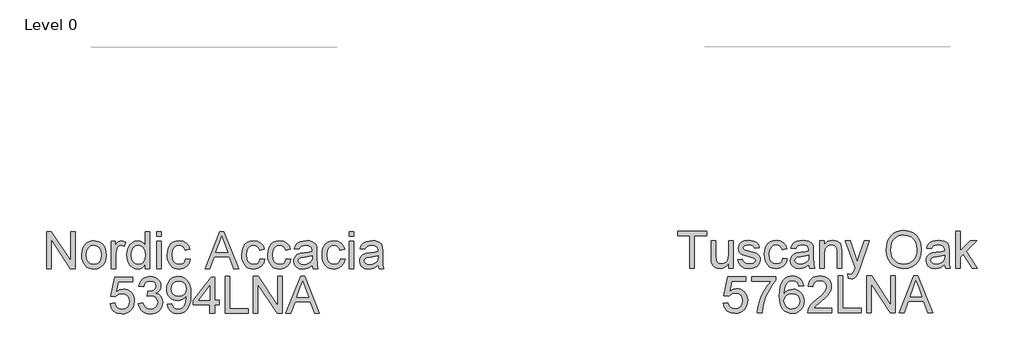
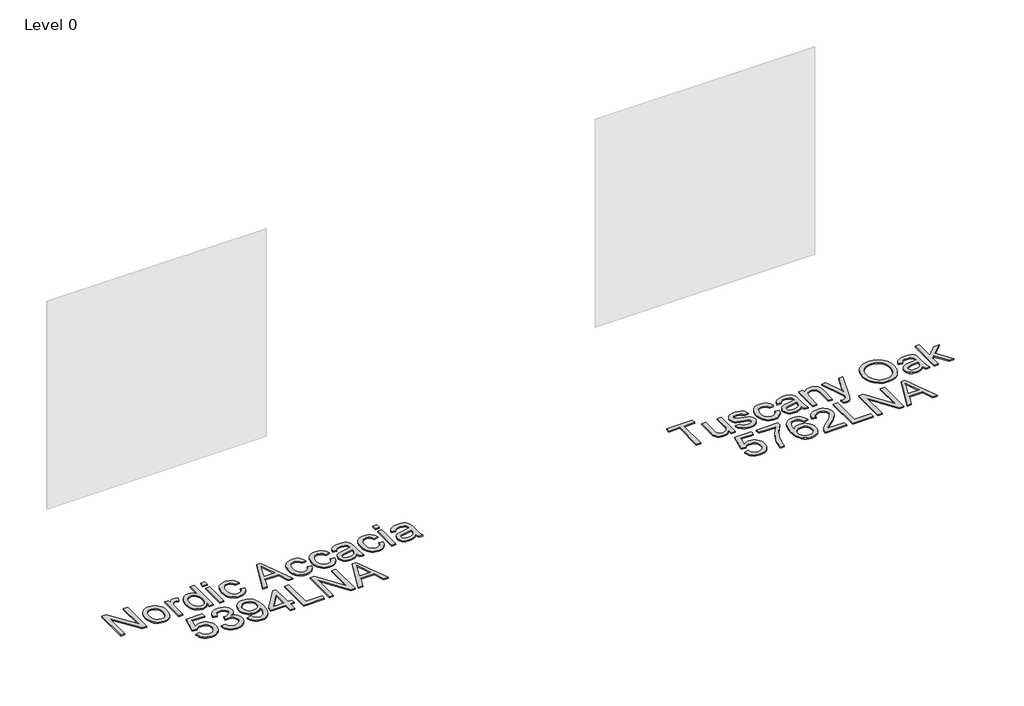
# One storey, part 25 of 43: 2 proxies.
"""IFC4 building model written with IfcOpenShell, lengths in millimetres."""

from ifc_helpers import new_model, si_unit, origin, origin_with_axes, place, context, project, spatial, polyline, outline, extrude, element, save

model = new_model("IFC4")

# Units and contexts
model_context = context("Model", 3, world=origin())
ifc_project = project(units=[si_unit("LENGTHUNIT", "METRE", prefix="MILLI")], contexts=[model_context])

# Site, building, storey
site = spatial("IfcSite", under=ifc_project)
building = spatial("IfcBuilding", under=site)
storey = spatial("IfcBuildingStorey", under=building, Name="Level 0", Elevation=0.0)

# Proxies
placement = place(None, origin())
element("IfcBuildingElementProxy", 1, Name="300mm Arial", ObjectType="300mm Arial", at=placement, inside=storey, context=model_context, shape_type="SweptSolid", body=[
    extrude(outline(polyline([(21183.7639776, -27002.860494), (21183.7639776, -26701.4915635), (21224.0838443, -26701.4915635), (21381.5373382, -26940.2469784), (21381.5373382, -26701.4915635), (21419.2084545, -26701.4915635), (21419.2084545, -27002.860494), (21378.8885878, -27002.860494), (21221.4350939, -26764.0315027), (21221.4350939, -27002.860494), (21183.7639776, -27002.860494)])), origin_with_axes(), (0.0, 0.0, 1.0), 10.0),
    extrude(outline(polyline([(21471.0062394, -26892.2015898), (21473.043386, -26863.5389839), (21479.1548256, -26838.8403064), (21489.3405584, -26818.1055575), (21503.6005842, -26801.334737), (21517.9571791, -26790.6155754), (21533.803696, -26782.9590314), (21551.140135, -26778.3651049), (21569.9664961, -26776.8337961), (21590.7495296, -26778.698498), (21609.5414018, -26784.2926036), (21626.3421126, -26793.6161129), (21641.1516622, -26806.669026), (21653.238885, -26823.0098843), (21661.8726156, -26842.1972296), (21667.0528539, -26864.2310619), (21668.7796, -26889.1113811), (21665.7261795, -26927.1687735), (21656.5659178, -26956.1394806), (21641.5655294, -26977.8353213), (21620.9917289, -26994.0681143), (21596.5551673, -27004.1940662), (21569.9664961, -27007.5693835), (21548.87996, -27005.7115794), (21529.9133439, -27000.1381672), (21513.0666478, -26990.8491468), (21498.3398717, -26977.8445183), (21486.3814076, -26961.3450108), (21477.8396475, -26941.5713536), (21472.7145914, -26918.5235466), (21471.0062394, -26892.2015898)]), holes=[polyline([(21508.6773557, -26892.1280134), (21513.0367574, -26926.2214773), (21526.1149623, -26950.5108861), (21545.796649, -26965.0514219), (21569.9664961, -26969.8982672), (21594.0259786, -26965.0238308), (21613.6708772, -26950.4005215), (21626.7490821, -26925.789216), (21631.1084837, -26890.950791), (21626.7214909, -26857.8506085), (21613.5605126, -26833.8922936), (21593.8880229, -26819.3517577), (21569.9664961, -26814.5049125), (21545.796649, -26819.3333636), (21526.1149623, -26833.8187172), (21513.0367574, -26858.0529436), (21508.6773557, -26892.1280134)])]), origin_with_axes(), (0.0, 0.0, 1.0), 10.0),
    extrude(outline(polyline([(21711.1596059, -27002.860494), (21711.1596059, -26781.5426857), (21744.1218326, -26781.5426857), (21744.1218326, -26814.2841833), (21756.2987267, -26795.3014723), (21767.5191275, -26784.1178596), (21778.7763166, -26778.654812), (21791.0635752, -26776.8337961), (21809.825557, -26779.7400639), (21828.8818443, -26788.4588672), (21816.3002801, -26822.2304343), (21803.0565283, -26816.4362929), (21789.8127765, -26814.5049125), (21778.5647844, -26816.3627165), (21768.5124089, -26821.9361288), (21760.3914139, -26830.8020848), (21754.9375633, -26842.5375205), (21750.3574325, -26863.5803706), (21748.8307222, -26886.5362071), (21748.8307222, -27002.860494), (21711.1596059, -27002.860494)])), origin_with_axes(), (0.0, 0.0, 1.0), 10.0),
    extrude(outline(polyline([(21988.9840886, -27002.860494), (21988.9840886, -26967.3230932), (21977.713104, -26984.9308452), (21964.0600835, -26997.507811), (21948.025027, -27005.0539904), (21929.6079346, -27007.5693835), (21905.2541465, -27003.9273518), (21882.9604976, -26993.0012565), (21864.0881513, -26975.5544529), (21849.9982709, -26952.350296), (21841.2242853, -26924.3268851), (21838.2996234, -26892.422319), (21840.994359, -26860.9132261), (21849.0785659, -26832.4575538), (21862.5430469, -26808.6739828), (21881.3786051, -26791.181194), (21904.1596976, -26780.4206456), (21929.4607818, -26776.8337961), (21947.8916698, -26779.3997731), (21964.1888422, -26787.0977038), (21978.0028111, -26798.8975188), (21988.9840886, -26813.7691485), (21988.9840886, -26701.4915635), (22026.6552049, -26701.4915635), (22026.6552049, -27002.860494), (21988.9840886, -27002.860494)]), holes=[polyline([(21875.9707397, -26892.2751662), (21880.2197768, -26926.350236), (21892.9668879, -26950.5844625), (21911.4897464, -26965.069816), (21933.0660254, -26969.8982672), (21954.6331073, -26965.2905452), (21972.6869163, -26951.4673793), (21984.9097955, -26928.1712519), (21988.9840886, -26895.1446458), (21984.8362191, -26859.037028), (21972.3926107, -26834.0026582), (21953.8789492, -26819.3793489), (21931.520921, -26814.5049125), (21909.7239128, -26819.1862108), (21891.8632419, -26833.230106), (21879.9438653, -26857.3539678), (21875.9707397, -26892.2751662)])]), origin_with_axes(), (0.0, 0.0, 1.0), 10.0),
    extrude(outline(polyline([(22083.1618794, -26739.1626798), (22083.1618794, -26701.4915635), (22120.8329957, -26701.4915635), (22120.8329957, -26739.1626798), (22083.1618794, -26739.1626798)])), origin_with_axes(), (0.0, 0.0, 1.0), 10.0),
    extrude(outline(polyline([(22083.1618794, -27002.860494), (22083.1618794, -26781.5426857), (22120.8329957, -26781.5426857), (22120.8329957, -27002.860494), (22083.1618794, -27002.860494)])), origin_with_axes(), (0.0, 0.0, 1.0), 10.0),
    extrude(outline(polyline([(22318.6063563, -26922.8093718), (22356.2774726, -26927.5182614), (22345.7744417, -26961.0231141), (22326.0375726, -26986.3425924), (22298.9246696, -27002.2626857), (22266.2935366, -27007.5693835), (22245.1656138, -27005.7184772), (22226.2219903, -27000.1657584), (22209.4626661, -26990.9112269), (22194.8876413, -26977.9548829), (22183.0901256, -26961.5404481), (22174.6633287, -26941.9116444), (22169.6072505, -26919.0684718), (22167.9218911, -26893.0109302), (22170.8005677, -26859.4876834), (22179.4365975, -26830.4342028), (22193.9679364, -26806.9725286), (22214.5325399, -26790.2247008), (22239.1346483, -26780.1815223), (22265.7785018, -26776.8337961), (22297.6094914, -26781.4323211), (22323.0577285, -26795.2278959), (22341.3138725, -26817.4847566), (22351.5685831, -26847.4671392), (22313.8974668, -26852.1760288), (22307.0640587, -26835.7409006), (22296.423072, -26823.9594797), (22282.5631178, -26816.8685543), (22266.0728074, -26814.5049125), (22241.7282164, -26819.1586197), (22222.4052146, -26833.1197414), (22209.7960592, -26857.1424357), (22205.5930074, -26891.9808606), (22209.7040887, -26927.2883351), (22222.0373326, -26951.3938029), (22241.0108465, -26965.2721511), (22265.0427378, -26969.8982672), (22284.5496806, -26967.0103936), (22300.5433504, -26958.3467726), (22312.1776185, -26943.6866751), (22318.6063563, -26922.8093718)])), origin_with_axes(), (0.0, 0.0, 1.0), 10.0),
    extrude(outline(polyline([(22476.574885, -27002.860494), (22596.8722975, -26701.4915635), (22628.9516074, -26701.4915635), (22749.2490199, -27002.860494), (22709.444188, -27002.860494), (22674.9368568, -26908.6827032), (22550.8134717, -26908.6827032), (22516.3797169, -27002.860494), (22476.574885, -27002.860494)]), holes=[polyline([(22564.6458347, -26871.0115869), (22661.1780702, -26871.0115869), (22634.028379, -26796.9201531), (22612.9119525, -26739.1626798), (22594.1499707, -26790.44543), (22564.6458347, -26871.0115869)])]), origin_with_axes(), (0.0, 0.0, 1.0), 10.0),
    extrude(outline(polyline([(22926.0531068, -26922.8093718), (22963.7242231, -26927.5182614), (22953.2211921, -26961.0231141), (22933.4843231, -26986.3425924), (22906.37142, -27002.2626857), (22873.740287, -27007.5693835), (22852.6123642, -27005.7184772), (22833.6687407, -27000.1657584), (22816.9094166, -26990.9112269), (22802.3343918, -26977.9548829), (22790.536876, -26961.5404481), (22782.1100791, -26941.9116444), (22777.0540009, -26919.0684718), (22775.3686415, -26893.0109302), (22778.2473181, -26859.4876834), (22786.883348, -26830.4342028), (22801.4146868, -26806.9725286), (22821.9792903, -26790.2247008), (22846.5813987, -26780.1815223), (22873.2252522, -26776.8337961), (22905.0562419, -26781.4323211), (22930.5044789, -26795.2278959), (22948.7606229, -26817.4847566), (22959.0153335, -26847.4671392), (22921.3442172, -26852.1760288), (22914.5108092, -26835.7409006), (22903.8698224, -26823.9594797), (22890.0098683, -26816.8685543), (22873.5195578, -26814.5049125), (22849.1749668, -26819.1586197), (22829.851965, -26833.1197414), (22817.2428096, -26857.1424357), (22813.0397578, -26891.9808606), (22817.1508391, -26927.2883351), (22829.484083, -26951.3938029), (22848.4575969, -26965.2721511), (22872.4894883, -26969.8982672), (22891.9964311, -26967.0103936), (22907.9901008, -26958.3467726), (22919.6243689, -26943.6866751), (22926.0531068, -26922.8093718)])), origin_with_axes(), (0.0, 0.0, 1.0), 10.0),
    extrude(outline(polyline([(23137.953136, -26922.8093718), (23175.6242523, -26927.5182614), (23165.1212213, -26961.0231141), (23145.3843523, -26986.3425924), (23118.2714492, -27002.2626857), (23085.6403163, -27007.5693835), (23064.5123934, -27005.7184772), (23045.5687699, -27000.1657584), (23028.8094458, -26990.9112269), (23014.234421, -26977.9548829), (23002.4369053, -26961.5404481), (22994.0101083, -26941.9116444), (22988.9540301, -26919.0684718), (22987.2686708, -26893.0109302), (22990.1473474, -26859.4876834), (22998.7833772, -26830.4342028), (23013.314716, -26806.9725286), (23033.8793195, -26790.2247008), (23058.481428, -26780.1815223), (23085.1252815, -26776.8337961), (23116.9562711, -26781.4323211), (23142.4045081, -26795.2278959), (23160.6606521, -26817.4847566), (23170.9153627, -26847.4671392), (23133.2442464, -26852.1760288), (23126.4108384, -26835.7409006), (23115.7698517, -26823.9594797), (23101.9098975, -26816.8685543), (23085.4195871, -26814.5049125), (23061.074996, -26819.1586197), (23041.7519942, -26833.1197414), (23029.1428389, -26857.1424357), (23024.9397871, -26891.9808606), (23029.0508684, -26927.2883351), (23041.3841122, -26951.3938029), (23060.3576261, -26965.2721511), (23084.3895175, -26969.8982672), (23103.8964603, -26967.0103936), (23119.89013, -26958.3467726), (23131.5243981, -26943.6866751), (23137.953136, -26922.8093718)])), origin_with_axes(), (0.0, 0.0, 1.0), 10.0),
    extrude(outline(polyline([(23349.8531652, -26974.6071568), (23331.8545386, -26990.0398064), (23313.3224831, -27000.1381672), (23293.8339344, -27005.7115794), (23272.9658282, -27007.5693835), (23241.4843265, -27003.0996173), (23218.2617755, -26989.6903186), (23203.9419689, -26969.3280501), (23199.1687, -26943.9993748), (23200.9713217, -26928.3827841), (23206.3791871, -26914.2009331), (23214.7209113, -26902.0608273), (23225.3251098, -26892.5694718), (23251.7022489, -26880.2086368), (23284.2965937, -26874.5432541), (23322.8138386, -26868.5835657), (23349.632436, -26861.5938078), (23349.8531652, -26853.2060983), (23347.2595971, -26836.3938912), (23339.4788929, -26825.3942195), (23322.0780746, -26817.2272392), (23297.8346511, -26814.5049125), (23275.3938494, -26816.3167313), (23259.7220764, -26821.7521878), (23249.0351044, -26831.8045633), (23241.5487058, -26847.4671392), (23203.8775895, -26842.7582497), (23210.416692, -26822.156858), (23220.1747619, -26805.9700502), (23234.0623072, -26793.590821), (23252.9898359, -26784.4121652), (23276.1388104, -26778.7283884), (23302.6906934, -26776.8337961), (23328.1573245, -26778.5076592), (23348.344849, -26783.5292485), (23363.5659666, -26791.0800264), (23374.1333769, -26800.3414556), (23381.1415289, -26811.7917827), (23385.6848715, -26825.9092543), (23387.5242815, -26858.8714811), (23387.5242815, -26905.7396473), (23389.4372679, -26971.1858542), (23396.9420606, -27002.860494), (23359.2709443, -27002.860494), (23349.8531652, -26974.6071568)]), holes=[polyline([(23349.8531652, -26899.2649241), (23289.0790596, -26910.8164188), (23256.6686558, -26916.9232599), (23241.9901642, -26926.8560738), (23236.8398163, -26941.3506244), (23239.6449165, -26952.5526311), (23248.0602171, -26961.7312869), (23261.9017772, -26967.8565221), (23280.9856557, -26969.8982672), (23301.2191654, -26967.64499), (23319.0982304, -26960.8851583), (23333.592781, -26950.9247533), (23343.6727477, -26939.069756), (23348.1425139, -26926.8560738), (23349.632436, -26909.933502), (23349.8531652, -26899.2649241)])]), origin_with_axes(), (0.0, 0.0, 1.0), 10.0),
    extrude(outline(polyline([(23580.5887526, -26922.8093718), (23618.2598689, -26927.5182614), (23607.7568379, -26961.0231141), (23588.0199689, -26986.3425924), (23560.9070658, -27002.2626857), (23528.2759329, -27007.5693835), (23507.14801, -27005.7184772), (23488.2043865, -27000.1657584), (23471.4450624, -26990.9112269), (23456.8700376, -26977.9548829), (23445.0725219, -26961.5404481), (23436.6457249, -26941.9116444), (23431.5896467, -26919.0684718), (23429.9042873, -26893.0109302), (23432.782964, -26859.4876834), (23441.4189938, -26830.4342028), (23455.9503326, -26806.9725286), (23476.5149361, -26790.2247008), (23501.1170446, -26780.1815223), (23527.7608981, -26776.8337961), (23559.5918877, -26781.4323211), (23585.0401247, -26795.2278959), (23603.2962687, -26817.4847566), (23613.5509793, -26847.4671392), (23575.879863, -26852.1760288), (23569.046455, -26835.7409006), (23558.4054683, -26823.9594797), (23544.5455141, -26816.8685543), (23528.0552037, -26814.5049125), (23503.7106126, -26819.1586197), (23484.3876108, -26833.1197414), (23471.7784554, -26857.1424357), (23467.5754037, -26891.9808606), (23471.6864849, -26927.2883351), (23484.0197288, -26951.3938029), (23502.9932427, -26965.2721511), (23527.0251341, -26969.8982672), (23546.5320769, -26967.0103936), (23562.5257466, -26958.3467726), (23574.1600147, -26943.6866751), (23580.5887526, -26922.8093718)])), origin_with_axes(), (0.0, 0.0, 1.0), 10.0),
    extrude(outline(polyline([(23651.2220956, -27002.860494), (23651.2220956, -26781.5426857), (23688.893212, -26781.5426857), (23688.893212, -27002.860494), (23651.2220956, -27002.860494)])), origin_with_axes(), (0.0, 0.0, 1.0), 10.0),
    extrude(outline(polyline([(23651.2220956, -26739.1626798), (23651.2220956, -26701.4915635), (23688.893212, -26701.4915635), (23688.893212, -26739.1626798), (23651.2220956, -26739.1626798)])), origin_with_axes(), (0.0, 0.0, 1.0), 10.0),
    extrude(outline(polyline([(23886.6665726, -26974.6071568), (23868.6679459, -26990.0398064), (23850.1358904, -27000.1381672), (23830.6473417, -27005.7115794), (23809.7792356, -27007.5693835), (23778.2977338, -27003.0996173), (23755.0751829, -26989.6903186), (23740.7553762, -26969.3280501), (23735.9821073, -26943.9993748), (23737.7847291, -26928.3827841), (23743.1925944, -26914.2009331), (23751.5343187, -26902.0608273), (23762.1385172, -26892.5694718), (23788.5156562, -26880.2086368), (23821.110001, -26874.5432541), (23859.6272459, -26868.5835657), (23886.4458434, -26861.5938078), (23886.6665726, -26853.2060983), (23884.0730045, -26836.3938912), (23876.2923003, -26825.3942195), (23858.8914819, -26817.2272392), (23834.6480584, -26814.5049125), (23812.2072567, -26816.3167313), (23796.5354837, -26821.7521878), (23785.8485118, -26831.8045633), (23778.3621132, -26847.4671392), (23740.6909969, -26842.7582497), (23747.2300993, -26822.156858), (23756.9881693, -26805.9700502), (23770.8757146, -26793.590821), (23789.8032432, -26784.4121652), (23812.9522178, -26778.7283884), (23839.5041008, -26776.8337961), (23864.9707319, -26778.5076592), (23885.1582564, -26783.5292485), (23900.3793739, -26791.0800264), (23910.9467842, -26800.3414556), (23917.9549362, -26811.7917827), (23922.4982789, -26825.9092543), (23924.3376889, -26858.8714811), (23924.3376889, -26905.7396473), (23926.2506752, -26971.1858542), (23933.7554679, -27002.860494), (23896.0843516, -27002.860494), (23886.6665726, -26974.6071568)]), holes=[polyline([(23886.6665726, -26899.2649241), (23825.892467, -26910.8164188), (23793.4820632, -26916.9232599), (23778.8035716, -26926.8560738), (23773.6532236, -26941.3506244), (23776.4583239, -26952.5526311), (23784.8736245, -26961.7312869), (23798.7151846, -26967.8565221), (23817.7990631, -26969.8982672), (23838.0325728, -26967.64499), (23855.9116378, -26960.8851583), (23870.4061884, -26950.9247533), (23880.486155, -26939.069756), (23884.9559213, -26926.8560738), (23886.4458434, -26909.933502), (23886.6665726, -26899.2649241)])]), origin_with_axes(), (0.0, 0.0, 1.0), 10.0),
    extrude(outline(polyline([(21701.7418268, -27288.7338254), (21739.4129431, -27284.0249358), (21746.3291246, -27306.6404815), (21758.3956541, -27322.8364863), (21775.5573491, -27332.5761621), (21797.7590275, -27335.8227207), (21824.761566, -27331.3069693), (21844.9950757, -27317.7597148), (21857.6318223, -27296.7444558), (21861.8440711, -27269.8246908), (21857.8985367, -27244.4776213), (21846.0619335, -27225.0902402), (21826.242291, -27212.7845875), (21798.3476387, -27208.6827032), (21780.0731006, -27210.3197781), (21765.2750474, -27215.2310027), (21744.1218326, -27232.2271509), (21706.4507163, -27227.5182614), (21739.4129431, -27072.1249066), (21885.3885188, -27072.1249066), (21885.3885188, -27109.7960229), (21769.8735723, -27109.7960229), (21753.7603409, -27192.790201), (21780.6709089, -27176.4562404), (21808.8690638, -27171.0115869), (21827.214879, -27172.6992456), (21844.0661737, -27177.7622215), (21859.4229477, -27186.2005148), (21873.2852012, -27198.0141254), (21884.7608201, -27212.4810848), (21892.9576908, -27228.8794248), (21897.8758133, -27247.2091452), (21899.5151874, -27267.470246), (21893.6106814, -27305.1413624), (21886.2300489, -27321.9351754), (21875.8971633, -27337.3678251), (21860.2437844, -27353.1729553), (21841.9784434, -27364.4623341), (21821.1011401, -27371.2359613), (21797.6118747, -27373.4938371), (21760.6121431, -27367.6904986), (21744.9334723, -27360.4363255), (21731.1355982, -27350.2804832), (21719.6553807, -27337.7288093), (21710.9296796, -27323.2871418), (21701.7418268, -27288.7338254)])), origin_with_axes(), (0.0, 0.0, 1.0), 10.0),
    extrude(outline(polyline([(21932.4774142, -27288.7338254), (21970.1485305, -27284.0249358), (21978.5822252, -27307.6981422), (21990.9338632, -27323.6826149), (22007.8104497, -27332.7876943), (22029.8189901, -27335.8227207), (22055.6443062, -27331.6472601), (22075.5835103, -27319.1208782), (22088.3306214, -27300.4324728), (22092.5796585, -27277.7709419), (22088.3674096, -27256.2590422), (22075.7306631, -27238.8122386), (22056.6007994, -27227.2515469), (22032.9091989, -27223.397983), (22006.4952716, -27227.5182614), (22010.6891264, -27189.8471451), (22016.7223911, -27190.2886035), (22039.2919515, -27187.5846708), (22059.4702789, -27179.4728728), (22073.7073121, -27165.7508744), (22078.4529899, -27146.2163404), (22075.0132932, -27129.9467592), (22064.6942032, -27116.7489926), (22048.9488539, -27108.0025982), (22029.2303789, -27105.0871334), (22009.4751158, -27108.0301893), (21993.3250962, -27116.8593572), (21981.5344782, -27131.574637), (21974.85742, -27152.1760288), (21937.1863037, -27147.4671392), (21948.2779459, -27113.6403898), (21968.0148149, -27088.3852908), (21995.0173534, -27072.6583355), (22027.9060037, -27067.4160171), (22051.5884072, -27070.0003881), (22073.3394301, -27077.7535011), (22091.6783476, -27089.9855775), (22105.1244345, -27106.0068384), (22113.3741883, -27124.4653175), (22116.1241062, -27144.0090485), (22113.512144, -27162.2192072), (22105.6762575, -27178.7371088), (22092.7268113, -27192.8085951), (22074.7741699, -27203.6795081), (22098.3554058, -27213.2076518), (22115.8298006, -27229.4312477), (22126.6455312, -27251.4673793), (22130.2507748, -27278.4331295), (22128.448153, -27297.5445992), (22123.0402877, -27315.1477526), (22114.0271788, -27331.2425899), (22101.4088264, -27345.829111), (22086.0359575, -27357.9324287), (22068.7592993, -27366.5776555), (22049.5788518, -27371.7647917), (22028.4946149, -27373.4938371), (22009.4383276, -27372.0177105), (21992.0742974, -27367.589331), (21976.4025244, -27360.2086985), (21962.4230086, -27349.875813), (21950.7013685, -27337.1976797), (21941.8032228, -27322.781304), (21935.7285713, -27306.6266859), (21932.4774142, -27288.7338254)])), origin_with_axes(), (0.0, 0.0, 1.0), 10.0),
    extrude(outline(polyline([(22167.9218911, -27293.4427149), (22205.5930074, -27288.7338254), (22212.0309423, -27310.1169663), (22222.5155792, -27324.6758963), (22236.7894006, -27333.0360146), (22254.5948892, -27335.8227207), (22270.5701648, -27334.029296), (22285.0923066, -27328.6490218), (22297.158836, -27320.2705094), (22305.7672747, -27309.4823699), (22318.0913215, -27276.7408723), (22323.5359751, -27233.0364913), (22323.3152459, -27225.6788514), (22310.2646321, -27241.6081418), (22293.1857105, -27254.2264942), (22273.3108857, -27262.4486568), (22251.8725624, -27265.1893777), (22233.9774026, -27263.5155146), (22217.5215811, -27258.4939254), (22202.5050979, -27250.12461), (22188.927953, -27238.4075684), (22177.6776618, -27223.9544045), (22169.6417394, -27207.3767221), (22164.820186, -27188.6745212), (22163.2130016, -27167.8478018), (22164.8983609, -27146.326705), (22169.9544391, -27127.0129003), (22178.3812361, -27109.9063875), (22190.1787518, -27095.0071667), (22204.5146533, -27082.9360387), (22220.5566076, -27074.3138045), (22238.3046146, -27069.1404639), (22257.7586743, -27067.4160171), (22285.8556617, -27071.3523544), (22311.4326574, -27083.1613665), (22332.8249954, -27102.254442), (22348.3680097, -27128.0429699), (22357.8317741, -27163.6907352), (22360.9863622, -27212.3615232), (22357.8409711, -27263.96617), (22348.4047979, -27303.8537754), (22332.7606161, -27333.8269609), (22310.991199, -27355.6883485), (22284.0346458, -27369.0424649), (22252.8290556, -27373.4938371), (22220.6209869, -27368.2423216), (22194.9244295, -27352.4877751), (22176.9533941, -27327.2234791), (22167.9218911, -27293.4427149)]), holes=[polyline([(22323.3152459, -27166.964885), (22319.2501498, -27141.4338745), (22307.0548617, -27121.788976), (22288.127333, -27109.262594), (22263.8655154, -27105.0871334), (22238.702387, -27109.5844908), (22218.5424536, -27123.0765629), (22205.2987018, -27143.7239399), (22200.8841179, -27169.6872117), (22205.0595785, -27192.964945), (22217.5859604, -27211.4418182), (22237.2492531, -27223.4991506), (22262.8354458, -27227.5182614), (22286.9041254, -27223.4991506), (22306.2823095, -27211.4418182), (22319.0570118, -27192.2843633), (22323.3152459, -27166.964885)])]), origin_with_axes(), (0.0, 0.0, 1.0), 10.0),
    extrude(outline(polyline([(22516.3797169, -27368.7849475), (22516.3797169, -27298.1516044), (22379.8219203, -27298.1516044), (22379.8219203, -27260.4804881), (22525.797496, -27072.1249066), (22554.0508332, -27072.1249066), (22554.0508332, -27260.4804881), (22591.7219495, -27260.4804881), (22591.7219495, -27298.1516044), (22554.0508332, -27298.1516044), (22554.0508332, -27368.7849475), (22516.3797169, -27368.7849475)]), holes=[polyline([(22516.3797169, -27260.4804881), (22516.3797169, -27144.0826249), (22426.1750517, -27260.4804881), (22516.3797169, -27260.4804881)])]), origin_with_axes(), (0.0, 0.0, 1.0), 10.0),
    extrude(outline(polyline([(22638.8108449, -27368.7849475), (22638.8108449, -27067.4160171), (22676.4819612, -27067.4160171), (22676.4819612, -27331.1138312), (22827.1664265, -27331.1138312), (22827.1664265, -27368.7849475), (22638.8108449, -27368.7849475)])), origin_with_axes(), (0.0, 0.0, 1.0), 10.0),
    extrude(outline(polyline([(22869.5464323, -27368.7849475), (22869.5464323, -27067.4160171), (22909.866299, -27067.4160171), (23067.3197929, -27306.1714319), (23067.3197929, -27067.4160171), (23104.9909092, -27067.4160171), (23104.9909092, -27368.7849475), (23064.6710425, -27368.7849475), (22907.2175486, -27129.9559562), (22907.2175486, -27368.7849475), (22869.5464323, -27368.7849475)])), origin_with_axes(), (0.0, 0.0, 1.0), 10.0),
    extrude(outline(polyline([(23135.8194204, -27368.7849475), (23256.1168328, -27067.4160171), (23288.1961428, -27067.4160171), (23408.4935552, -27368.7849475), (23368.6887234, -27368.7849475), (23334.1813922, -27274.6071568), (23210.058007, -27274.6071568), (23175.6242523, -27368.7849475), (23135.8194204, -27368.7849475)]), holes=[polyline([(23223.89037, -27236.9360404), (23320.4226056, -27236.9360404), (23293.2729143, -27162.8446066), (23272.1564878, -27105.0871334), (23253.3945061, -27156.3698835), (23223.89037, -27236.9360404)])]), origin_with_axes(), (0.0, 0.0, 1.0), 10.0),
])
element("IfcBuildingElementProxy", 2, Name="300mm Arial", ObjectType="300mm Arial", at=placement, inside=storey, context=model_context, shape_type="SweptSolid", body=[
    extrude(outline(polyline([(26428.6262336, -26998.860494), (26428.6262336, -26735.1626798), (26329.7395533, -26735.1626798), (26329.7395533, -26697.4915635), (26565.1840302, -26697.4915635), (26565.1840302, -26735.1626798), (26466.2973499, -26735.1626798), (26466.2973499, -26998.860494), (26428.6262336, -26998.860494)])), origin_with_axes(), (0.0, 0.0, 1.0), 10.0),
    extrude(outline(polyline([(26744.1218326, -26998.860494), (26744.1218326, -26960.8214957), (26730.4918047, -26979.5236966), (26714.6176966, -26992.8824116), (26696.4995084, -27000.8976405), (26676.1372399, -27003.5693835), (26657.7891254, -27001.6931853), (26640.7102038, -26996.0645908), (26626.3812001, -26987.6033049), (26616.2828393, -26977.2290327), (26605.0624385, -26949.4907302), (26602.8551465, -26914.4683643), (26602.8551465, -26777.5426857), (26640.5262628, -26777.5426857), (26640.5262628, -26896.7364521), (26642.8071312, -26935.1433324), (26648.29777, -26947.9548229), (26657.706352, -26957.6944987), (26670.4074779, -26963.8473251), (26685.7757482, -26965.8982672), (26702.0269354, -26963.8013398), (26717.2296588, -26957.5105577), (26729.7652378, -26947.605335), (26738.0149915, -26934.6650858), (26742.5951224, -26916.9423707), (26744.1218326, -26892.6897502), (26744.1218326, -26777.5426857), (26781.792949, -26777.5426857), (26781.792949, -26998.860494), (26744.1218326, -26998.860494)])), origin_with_axes(), (0.0, 0.0, 1.0), 10.0),
    extrude(outline(polyline([(26819.4640653, -26932.9360404), (26857.1351816, -26928.2271509), (26863.0764758, -26944.3403823), (26874.5727881, -26956.1861825), (26891.697695, -26963.470246), (26914.5247728, -26965.8982672), (26937.0759391, -26963.6725811), (26952.9316531, -26956.9955229), (26962.312644, -26947.3202265), (26965.4396409, -26936.0998256), (26962.2942499, -26926.4981055), (26952.8580767, -26919.1772538), (26914.0833144, -26908.4350996), (26857.3559108, -26890.0042116), (26842.9993159, -26880.7427824), (26832.5974525, -26868.4831149), (26826.2790792, -26854.0069584), (26824.1729548, -26838.0960621), (26825.865212, -26823.5003439), (26830.9419835, -26810.0266659), (26838.9434169, -26798.2084568), (26849.4096597, -26788.5791455), (26873.3587776, -26777.4323211), (26905.7691813, -26772.8337961), (26930.2885163, -26774.6824032), (26951.6072779, -26780.2282242), (26968.7505789, -26788.9286334), (26980.7435319, -26800.2410048), (26988.689783, -26815.0022698), (26993.6929782, -26834.0493601), (26956.0218619, -26838.7582497), (26951.2669871, -26826.9032524), (26941.8584051, -26817.972917), (26927.7041453, -26812.3719136), (26908.7122373, -26810.5049125), (26887.080776, -26812.2891401), (26872.6598018, -26817.6418232), (26864.5480038, -26825.3673451), (26861.8440711, -26834.2700893), (26866.3322314, -26845.2329728), (26880.3853237, -26853.5471059), (26912.8325156, -26861.5669334), (26968.1251795, -26879.2988455), (26982.7300947, -26887.7785255), (26993.8033428, -26899.3852025), (27000.7839036, -26914.1556646), (27003.1107573, -26932.1267001), (27000.3792334, -26950.7047408), (26992.184662, -26968.1791356), (26978.8397426, -26983.1795239), (26960.657175, -26994.3355454), (26938.6946199, -27001.260924), (26914.009738, -27003.5693835), (26876.025922, -26999.1180114), (26848.3060137, -26985.763895), (26829.8015493, -26963.654187), (26819.4640653, -26932.9360404)])), origin_with_axes(), (0.0, 0.0, 1.0), 10.0),
    extrude(outline(polyline([(27186.7574492, -26918.8093718), (27224.4285656, -26923.5182614), (27213.9255346, -26957.0231141), (27194.1886655, -26982.3425924), (27167.0757625, -26998.2626857), (27134.4446295, -27003.5693835), (27113.3167067, -27001.7184772), (27094.3730832, -26996.1657584), (27077.6137591, -26986.9112269), (27063.0387343, -26973.9548829), (27051.2412185, -26957.5404481), (27042.8144216, -26937.9116444), (27037.7583434, -26915.0684718), (27036.072984, -26889.0109302), (27038.9516606, -26855.4876834), (27047.5876905, -26826.4342028), (27062.1190293, -26802.9725286), (27082.6836328, -26786.2247008), (27107.2857412, -26776.1815223), (27133.9295947, -26772.8337961), (27165.7605844, -26777.4323211), (27191.2088214, -26791.2278959), (27209.4649654, -26813.4847566), (27219.719676, -26843.4671392), (27182.0485597, -26848.1760288), (27175.2151516, -26831.7409006), (27164.5741649, -26819.9594797), (27150.7142108, -26812.8685543), (27134.2239003, -26810.5049125), (27109.8793093, -26815.1586197), (27090.5563075, -26829.1197414), (27077.9471521, -26853.1424357), (27073.7441003, -26887.9808606), (27077.8551816, -26923.2883351), (27090.1884255, -26947.3938029), (27109.1619394, -26961.2721511), (27133.1938307, -26965.8982672), (27152.7007735, -26963.0103936), (27168.6944433, -26954.3467726), (27180.3287114, -26939.6866751), (27186.7574492, -26918.8093718)])), origin_with_axes(), (0.0, 0.0, 1.0), 10.0),
    extrude(outline(polyline([(27398.6574785, -26970.6071568), (27380.6588519, -26986.0398064), (27362.1267963, -26996.1381672), (27342.6382477, -27001.7115794), (27321.7701415, -27003.5693835), (27290.2886397, -26999.0996173), (27267.0660888, -26985.6903186), (27252.7462821, -26965.3280501), (27247.9730132, -26939.9993748), (27249.775635, -26924.3827841), (27255.1835003, -26910.2009331), (27263.5252246, -26898.0608273), (27274.1294231, -26888.5694718), (27300.5065622, -26876.2086368), (27333.1009069, -26870.5432541), (27371.6181518, -26864.5835657), (27398.4367493, -26857.5938078), (27398.6574785, -26849.2060983), (27396.0639104, -26832.3938912), (27388.2832062, -26821.3942195), (27370.8823878, -26813.2272392), (27346.6389644, -26810.5049125), (27324.1981626, -26812.3167313), (27308.5263896, -26817.7521878), (27297.8394177, -26827.8045633), (27290.3530191, -26843.4671392), (27252.6819028, -26838.7582497), (27259.2210052, -26818.156858), (27268.9790752, -26801.9700502), (27282.8666205, -26789.590821), (27301.7941491, -26780.4121652), (27324.9431237, -26774.7283884), (27351.4950067, -26772.8337961), (27376.9616378, -26774.5076592), (27397.1491623, -26779.5292485), (27412.3702798, -26787.0800264), (27422.9376901, -26796.3414556), (27429.9458422, -26807.7917827), (27434.4891848, -26821.9092543), (27436.3285948, -26854.8714811), (27436.3285948, -26901.7396473), (27438.2415811, -26967.1858542), (27445.7463739, -26998.860494), (27408.0752575, -26998.860494), (27398.6574785, -26970.6071568)]), holes=[polyline([(27398.6574785, -26895.2649241), (27337.8833729, -26906.8164188), (27305.4729691, -26912.9232599), (27290.7944775, -26922.8560738), (27285.6441295, -26937.3506244), (27288.4492298, -26948.5526311), (27296.8645304, -26957.7312869), (27310.7060905, -26963.8565221), (27329.789969, -26965.8982672), (27350.0234787, -26963.64499), (27367.9025437, -26956.8851583), (27382.3970943, -26946.9247533), (27392.4770609, -26935.069756), (27396.9468272, -26922.8560738), (27398.4367493, -26905.933502), (27398.6574785, -26895.2649241)])]), origin_with_axes(), (0.0, 0.0, 1.0), 10.0),
    extrude(outline(polyline([(27488.1263797, -26998.860494), (27488.1263797, -26777.5426857), (27525.797496, -26777.5426857), (27525.797496, -26808.4447733), (27538.884898, -26792.8649708), (27554.6026562, -26781.7365404), (27572.9507707, -26775.0594822), (27593.9292415, -26772.8337961), (27612.4980852, -26774.6272209), (27629.5034304, -26780.0074951), (27643.6852814, -26788.303234), (27653.7836421, -26798.8430532), (27665.0776194, -26826.5445674), (27667.0641821, -26862.964885), (27667.0641821, -26998.860494), (27629.3930658, -26998.860494), (27629.3930658, -26868.0416565), (27625.0520583, -26834.7115477), (27619.0463847, -26824.7879309), (27609.7113791, -26817.0900002), (27597.7460172, -26812.1511844), (27583.8492748, -26810.5049125), (27561.7855522, -26814.2021265), (27542.9775852, -26825.2937687), (27535.4612962, -26834.3482643), (27530.0925183, -26846.7228949), (27525.797496, -26881.4325611), (27525.797496, -26998.860494), (27488.1263797, -26998.860494)])), origin_with_axes(), (0.0, 0.0, 1.0), 10.0),
    extrude(outline(polyline([(27718.8619671, -27083.6205057), (27714.1530775, -27047.3473409), (27733.2829413, -27050.6582789), (27751.1620062, -27046.5012124), (27762.1248897, -27034.9129295), (27772.4255856, -27007.1746271), (27775.3686415, -26998.0511536), (27695.3175194, -26777.5426857), (27735.0487749, -26777.5426857), (27777.5023571, -26900.4152721), (27792.2912133, -26949.5643066), (27807.0800695, -26906.1542312), (27850.7108741, -26777.5426857), (27890.147824, -26777.5426857), (27813.1133342, -27004.1579947), (27793.1005537, -27053.3070293), (27782.8550401, -27068.9971964), (27771.2483632, -27079.8681093), (27757.7654881, -27086.2140737), (27741.89138, -27088.3293952), (27718.8619671, -27083.6205057)])), origin_with_axes(), (0.0, 0.0, 1.0), 10.0),
    extrude(outline(polyline([(28029.6486766, -26852.1491543), (28032.1594712, -26816.8002931), (28039.6918551, -26785.5073309), (28052.2458281, -26758.2702677), (28069.8213905, -26735.0891034), (28091.3654798, -26716.5800406), (28115.825034, -26703.3592814), (28143.2000529, -26695.4268258), (28173.4905367, -26692.782674), (28213.0194571, -26697.7490809), (28248.4648873, -26712.6483017), (28277.8954469, -26736.4318727), (28299.3797555, -26768.0513302), (28312.5131427, -26805.9799639), (28316.8909384, -26848.6910636), (28312.2832164, -26891.9723803), (28298.4600505, -26930.4344429), (28276.1847957, -26962.1090827), (28246.2208072, -26985.028131), (28211.0788796, -26998.9340704), (28173.2698075, -27003.5693835), (28133.1338818, -26998.4466267), (28097.4861165, -26983.0783564), (28068.1291333, -26958.853327), (28046.865554, -26927.1602931), (28033.9528959, -26890.6939903), (28029.6486766, -26852.1491543)]), holes=[polyline([(28067.3197929, -26852.5170363), (28069.2028889, -26877.4916252), (28074.8521768, -26899.661114), (28084.2676566, -26919.0255025), (28097.4493283, -26935.5847908), (28113.4728885, -26948.8469367), (28131.4140335, -26958.3198981), (28151.2727635, -26964.0036749), (28173.0490783, -26965.8982672), (28195.1978737, -26963.9852808), (28215.2911284, -26958.2463217), (28233.3288425, -26948.6813898), (28249.3110159, -26935.2904852), (28262.3961186, -26918.381709), (28271.7426206, -26898.2631624), (28277.3505217, -26874.9348454), (28279.2198221, -26848.396758), (28276.0192488, -26815.0482551), (28266.4175287, -26786.2247008), (28250.6629822, -26762.6526619), (28229.0039298, -26745.0587055), (28202.8751111, -26734.1050191), (28173.7112659, -26730.4537903), (28152.6914084, -26732.2127261), (28133.1890641, -26737.4895335), (28115.2042331, -26746.2842124), (28098.7369153, -26758.5967629), (28084.9919242, -26775.0203948), (28075.1740735, -26796.1483176), (28069.2833631, -26821.9805314), (28067.3197929, -26852.5170363)])]), origin_with_axes(), (0.0, 0.0, 1.0), 10.0),
    extrude(outline(polyline([(28505.24652, -26970.6071568), (28487.2478933, -26986.0398064), (28468.7158378, -26996.1381672), (28449.2272891, -27001.7115794), (28428.359183, -27003.5693835), (28396.8776812, -26999.0996173), (28373.6551303, -26985.6903186), (28359.3353236, -26965.3280501), (28354.5620547, -26939.9993748), (28356.3646765, -26924.3827841), (28361.7725418, -26910.2009331), (28370.1142661, -26898.0608273), (28380.7184646, -26888.5694718), (28407.0956036, -26876.2086368), (28439.6899484, -26870.5432541), (28478.2071933, -26864.5835657), (28505.0257908, -26857.5938078), (28505.24652, -26849.2060983), (28502.6529519, -26832.3938912), (28494.8722477, -26821.3942195), (28477.4714293, -26813.2272392), (28453.2280058, -26810.5049125), (28430.7872041, -26812.3167313), (28415.1154311, -26817.7521878), (28404.4284592, -26827.8045633), (28396.9420606, -26843.4671392), (28359.2709443, -26838.7582497), (28365.8100467, -26818.156858), (28375.5681167, -26801.9700502), (28389.455662, -26789.590821), (28408.3831906, -26780.4121652), (28431.5321652, -26774.7283884), (28458.0840482, -26772.8337961), (28483.5506793, -26774.5076592), (28503.7382038, -26779.5292485), (28518.9593213, -26787.0800264), (28529.5267316, -26796.3414556), (28536.5348836, -26807.7917827), (28541.0782263, -26821.9092543), (28542.9176363, -26854.8714811), (28542.9176363, -26901.7396473), (28544.8306226, -26967.1858542), (28552.3354153, -26998.860494), (28514.664299, -26998.860494), (28505.24652, -26970.6071568)]), holes=[polyline([(28505.24652, -26895.2649241), (28444.4724144, -26906.8164188), (28412.0620106, -26912.9232599), (28397.383519, -26922.8560738), (28392.233171, -26937.3506244), (28395.0382713, -26948.5526311), (28403.4535719, -26957.7312869), (28417.295132, -26963.8565221), (28436.3790105, -26965.8982672), (28456.6125202, -26963.64499), (28474.4915852, -26956.8851583), (28488.9861358, -26946.9247533), (28499.0661024, -26935.069756), (28503.5358687, -26922.8560738), (28505.0257908, -26905.933502), (28505.24652, -26895.2649241)])]), origin_with_axes(), (0.0, 0.0, 1.0), 10.0),
    extrude(outline(polyline([(28594.7154212, -26998.860494), (28594.7154212, -26697.4915635), (28632.3865375, -26697.4915635), (28632.3865375, -26859.4332178), (28716.8522436, -26777.5426857), (28768.9443341, -26777.5426857), (28683.4485584, -26860.4632874), (28773.6532236, -26998.860494), (28729.654537, -26998.860494), (28656.44602, -26886.6564855), (28632.3865375, -26909.9802039), (28632.3865375, -26998.860494), (28594.7154212, -26998.860494)])), origin_with_axes(), (0.0, 0.0, 1.0), 10.0),
    extrude(outline(polyline([(26701.7418268, -27284.7338254), (26739.4129431, -27280.0249358), (26746.3291246, -27302.6404815), (26758.3956541, -27318.8364863), (26775.5573491, -27328.5761621), (26797.7590275, -27331.8227207), (26824.761566, -27327.3069693), (26844.9950757, -27313.7597148), (26857.6318223, -27292.7444558), (26861.8440711, -27265.8246908), (26857.8985367, -27240.4776213), (26846.0619335, -27221.0902402), (26826.242291, -27208.7845875), (26798.3476387, -27204.6827032), (26780.0731006, -27206.3197781), (26765.2750474, -27211.2310027), (26744.1218326, -27228.2271509), (26706.4507163, -27223.5182614), (26739.4129431, -27068.1249066), (26885.3885188, -27068.1249066), (26885.3885188, -27105.7960229), (26769.8735723, -27105.7960229), (26753.7603409, -27188.790201), (26780.6709089, -27172.4562404), (26808.8690638, -27167.0115869), (26827.214879, -27168.6992456), (26844.0661737, -27173.7622215), (26859.4229477, -27182.2005148), (26873.2852012, -27194.0141254), (26884.7608201, -27208.4810848), (26892.9576908, -27224.8794248), (26897.8758133, -27243.2091452), (26899.5151874, -27263.470246), (26893.6106814, -27301.1413624), (26886.2300489, -27317.9351754), (26875.8971633, -27333.3678251), (26860.2437844, -27349.1729553), (26841.9784434, -27360.4623341), (26821.1011401, -27367.2359613), (26797.6118747, -27369.4938371), (26760.6121431, -27363.6904986), (26744.9334723, -27356.4363255), (26731.1355982, -27346.2804832), (26719.6553807, -27333.7288093), (26710.9296796, -27319.2871418), (26701.7418268, -27284.7338254)])), origin_with_axes(), (0.0, 0.0, 1.0), 10.0),
    extrude(outline(polyline([(26932.4774142, -27105.7960229), (26932.4774142, -27068.1249066), (27130.2507748, -27068.1249066), (27130.2507748, -27098.5855358), (27102.0618169, -27134.2608923), (27074.1487705, -27179.6299393), (27049.528268, -27230.5540045), (27031.2169417, -27282.8944154), (27022.240621, -27322.0554538), (27017.2374259, -27364.7849475), (26979.5663096, -27364.7849475), (26983.6406027, -27325.9550029), (26994.5391068, -27279.8042066), (27011.9675163, -27230.8850983), (27035.6315256, -27183.7502177), (27063.2594635, -27141.1402856), (27092.5796585, -27105.7960229), (26932.4774142, -27105.7960229)])), origin_with_axes(), (0.0, 0.0, 1.0), 10.0),
    extrude(outline(polyline([(27356.2774726, -27143.4671392), (27318.6063563, -27148.1760288), (27312.5363034, -27129.5060175), (27304.3325349, -27116.7589064), (27287.2444162, -27105.0050766), (27266.5878422, -27101.0871334), (27249.0766592, -27103.3680017), (27232.5955458, -27110.2106069), (27218.4412861, -27124.622384), (27206.8805944, -27144.4604206), (27199.072299, -27172.5206198), (27196.1752283, -27211.5988847), (27211.2859813, -27193.9681401), (27229.3949725, -27181.5429257), (27249.4905265, -27174.1760888), (27270.5609677, -27171.7204764), (27288.6607619, -27173.3989381), (27305.3626045, -27178.4343229), (27320.6664955, -27186.8266309), (27334.5724349, -27198.5758621), (27346.1285281, -27212.9830407), (27354.3828803, -27229.349191), (27359.3354917, -27247.6743129), (27360.9863622, -27267.9584064), (27357.8777593, -27294.9333537), (27348.5519507, -27319.9401323), (27333.7814886, -27341.1485293), (27314.3389252, -27356.7283318), (27291.1071772, -27366.3024607), (27264.9691614, -27369.4938371), (27242.5122649, -27367.3785156), (27222.2304706, -27361.0325512), (27204.1237787, -27350.4559438), (27188.192189, -27335.6486935), (27175.2036553, -27315.9854009), (27165.9261313, -27290.8406665), (27160.3596168, -27260.2144904), (27158.504112, -27224.1068726), (27160.5642512, -27183.6260575), (27166.7446687, -27149.0773396), (27177.0453646, -27120.4607189), (27191.4663388, -27097.7761954), (27207.0967251, -27082.7436174), (27225.2195118, -27072.0060617), (27245.8346991, -27065.5635282), (27268.942287, -27063.4160171), (27301.9964842, -27068.7319119), (27328.4655938, -27084.6795964), (27347.0068463, -27110.0082718), (27356.2774726, -27143.4671392)]), holes=[polyline([(27196.1752283, -27267.3697952), (27198.3549291, -27284.0624407), (27204.8940316, -27300.0009282), (27215.0475747, -27313.7045325), (27228.0705973, -27323.6925287), (27243.7883555, -27329.7901727), (27262.0261055, -27331.8227207), (27286.8857313, -27327.6104719), (27306.4294623, -27314.9737254), (27319.0938, -27295.1080976), (27323.3152459, -27269.2092052), (27319.1489823, -27244.3495793), (27306.6501915, -27225.3944595), (27286.7753667, -27213.3923095), (27260.4810011, -27209.3915928), (27235.6581635, -27213.3923095), (27214.9004219, -27225.3944595), (27200.8565267, -27243.8897269), (27196.1752283, -27267.3697952)])]), origin_with_axes(), (0.0, 0.0, 1.0), 10.0),
    extrude(outline(polyline([(27587.01306, -27327.1138312), (27587.01306, -27364.7849475), (27389.2396994, -27364.7849475), (27393.2864013, -27338.8124787), (27402.5754217, -27318.5145896), (27416.1686614, -27298.8237058), (27435.8319541, -27278.213117), (27463.3311332, -27255.156113), (27503.9820937, -27219.0484951), (27528.37267, -27192.3954446), (27540.5679581, -27170.7639833), (27544.6330542, -27149.7211331), (27540.7978844, -27130.8579838), (27529.292375, -27115.1770138), (27511.606448, -27104.6096035), (27489.2300257, -27101.0871334), (27465.7315632, -27104.52683), (27447.4754192, -27114.84592), (27435.6939983, -27131.2350629), (27431.6197052, -27152.8849183), (27393.9485889, -27148.1760288), (27403.0812595, -27111.7373171), (27411.6276181, -27097.2013798), (27422.8273256, -27085.1210548), (27436.4228645, -27075.6251008), (27452.1567176, -27068.8422765), (27490.0393661, -27063.4160171), (27510.2291898, -27064.9243332), (27528.197926, -27069.4492818), (27543.9455747, -27076.9908627), (27557.4721358, -27087.549076), (27568.336151, -27100.3421723), (27576.0961618, -27114.5884026), (27580.7521683, -27130.2877667), (27582.3041705, -27147.4402648), (27580.6303074, -27165.4572855), (27575.6087181, -27183.1616065), (27566.6967768, -27201.1694302), (27553.3518574, -27220.0969588), (27532.0790811, -27242.6941104), (27499.3835687, -27271.7108027), (27456.0470697, -27307.9471793), (27439.0509215, -27327.1138312), (27587.01306, -27327.1138312)])), origin_with_axes(), (0.0, 0.0, 1.0), 10.0),
    extrude(outline(polyline([(27638.8108449, -27364.7849475), (27638.8108449, -27063.4160171), (27676.4819612, -27063.4160171), (27676.4819612, -27327.1138312), (27827.1664265, -27327.1138312), (27827.1664265, -27364.7849475), (27638.8108449, -27364.7849475)])), origin_with_axes(), (0.0, 0.0, 1.0), 10.0),
    extrude(outline(polyline([(27869.5464323, -27364.7849475), (27869.5464323, -27063.4160171), (27909.866299, -27063.4160171), (28067.3197929, -27302.1714319), (28067.3197929, -27063.4160171), (28104.9909092, -27063.4160171), (28104.9909092, -27364.7849475), (28064.6710425, -27364.7849475), (27907.2175486, -27125.9559562), (27907.2175486, -27364.7849475), (27869.5464323, -27364.7849475)])), origin_with_axes(), (0.0, 0.0, 1.0), 10.0),
    extrude(outline(polyline([(28135.8194204, -27364.7849475), (28256.1168328, -27063.4160171), (28288.1961428, -27063.4160171), (28408.4935552, -27364.7849475), (28368.6887234, -27364.7849475), (28334.1813922, -27270.6071568), (28210.058007, -27270.6071568), (28175.6242523, -27364.7849475), (28135.8194204, -27364.7849475)]), holes=[polyline([(28223.89037, -27232.9360404), (28320.4226056, -27232.9360404), (28293.2729143, -27158.8446066), (28272.1564878, -27101.0871334), (28253.3945061, -27152.3698835), (28223.89037, -27232.9360404)])]), origin_with_axes(), (0.0, 0.0, 1.0), 10.0),
])

save(model, "model.ifc")
